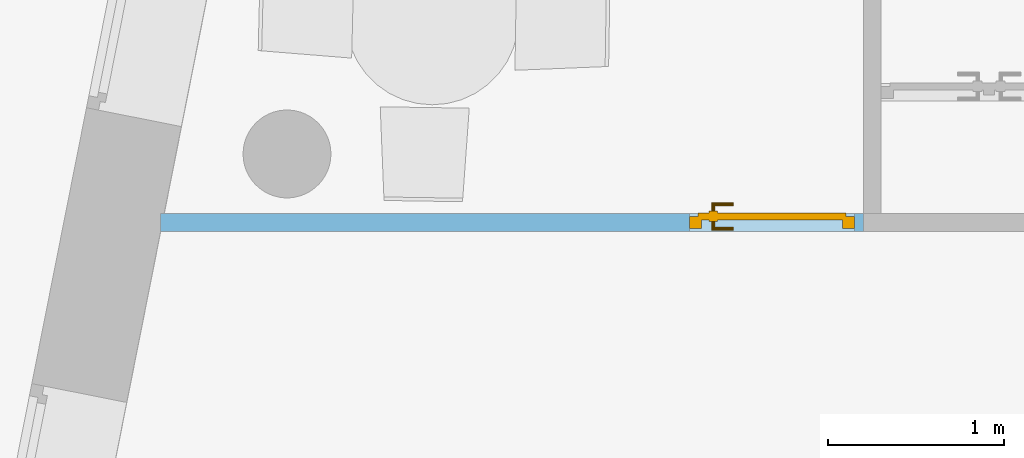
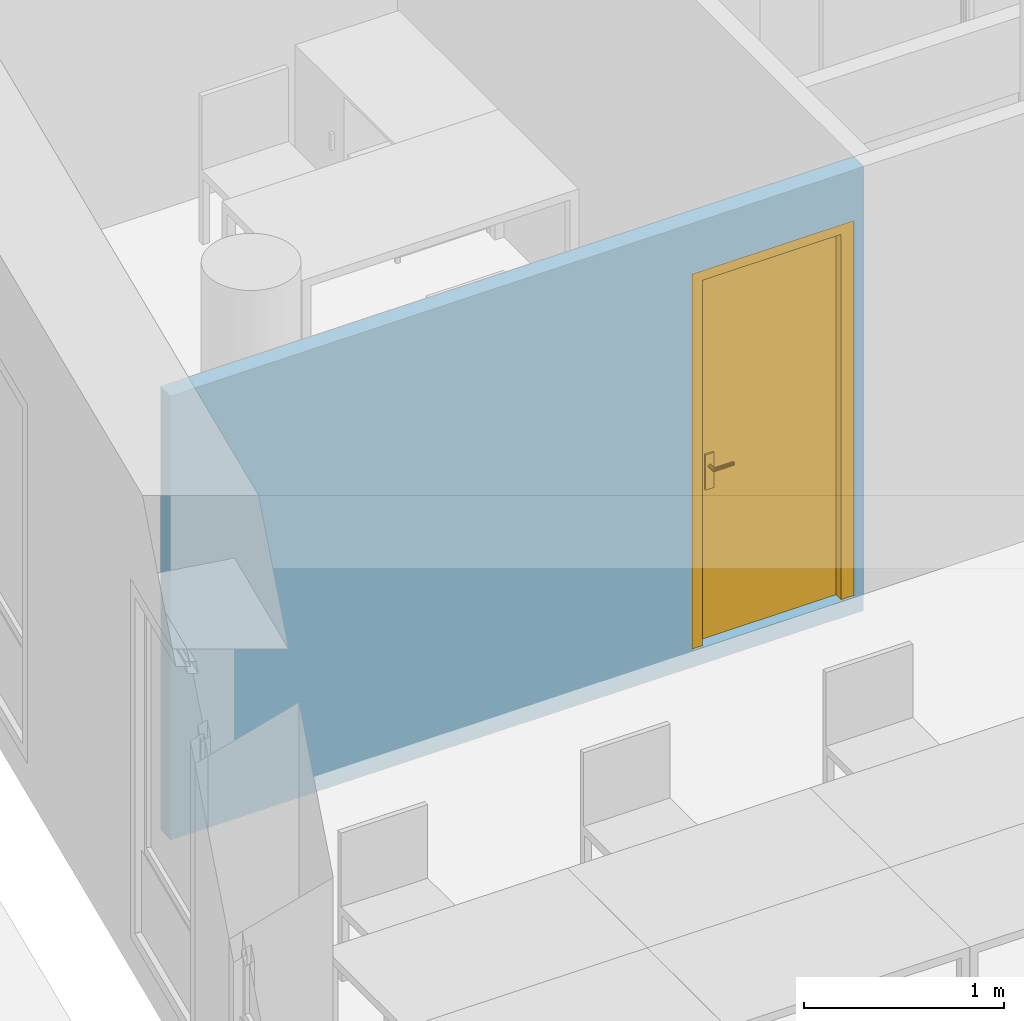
"""IFC4 building model written with IfcOpenShell, lengths in metres."""

from ifc_helpers import new_model, entity, si_unit, converted_unit, derived_unit, frame, frame_2d, origin, origin_with_axes, place, context, subcontext, project, spatial, polyline, rectangle, outline, extrude, faceted_brep, source, transform, mapped, material, layer, layer_set, layer_usage, element, fill, save


model = new_model("IFC4")

# Units and contexts
model_context = context("Model", 3, precision=1e-05, world=origin())
body_context = subcontext(model_context, "Body", "Model", "MODEL_VIEW")
ifc_project = project(units=[si_unit("LENGTHUNIT", "METRE"), si_unit("AREAUNIT", "SQUARE_METRE"), si_unit("VOLUMEUNIT", "CUBIC_METRE"), si_unit("MASSUNIT", "GRAM", prefix="KILO"), converted_unit("PLANEANGLEUNIT", "DEGREE", entity("IfcPlaneAngleMeasure", 0.0174532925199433), si_unit("PLANEANGLEUNIT", "RADIAN"), dimensions=[0, 0, 0, 0, 0, 0, 0]), derived_unit("THERMALTRANSMITTANCEUNIT", [(si_unit("POWERUNIT", "WATT"), 1), (si_unit("THERMODYNAMICTEMPERATUREUNIT", "KELVIN"), -1), (si_unit("LENGTHUNIT", "METRE"), -2)]), derived_unit("VOLUMETRICFLOWRATEUNIT", [(si_unit("LENGTHUNIT", "METRE"), 3), (converted_unit("TIMEUNIT", "hour", entity("IfcTimeMeasure", 3600.0), si_unit("TIMEUNIT", "SECOND"), dimensions=[0, 0, 1, 0, 0, 0, 0]), -1), (si_unit("LENGTHUNIT", "METRE"), -1)])], contexts=[model_context])

# Building, storeys
building_placement = place(None, origin())
building = spatial("IfcBuilding", under=ifc_project, at=building_placement, Name="HABITATGE PLURIFAMILIAR", CompositionType="ELEMENT")
storey_1_placement = place(building_placement, frame((0.0, 0.0, 6.25)))
storey_1 = spatial("IfcBuildingStorey", under=building, at=storey_1_placement, Name="PLANTA PRIMERA", CompositionType="ELEMENT", Elevation=6.25)
storey_2_placement = place(storey_1_placement, frame((0.0, 0.0, 3.35)))
storey_2 = spatial("IfcBuildingStorey", under=storey_1, at=storey_2_placement, Name="NOU", CompositionType="PARTIAL")

# Wall, opening, door
ifc_material = material()
ifc_layer = layer(ifc_material, 0.1)
ifc_layer_set = layer_set([ifc_layer])
ifc_layer_usage = layer_usage(ifc_layer_set, "AXIS2", "POSITIVE", 0.0)
wall_placement = place(storey_2_placement, frame((400.33768089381, 23.4194598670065, -3.45)))
wall = element("IfcWall", 1, at=wall_placement, inside=storey_2, material=ifc_layer_usage, Name="Mampara P1", context=body_context, shape_type="SweptSolid", body=[
    extrude(rectangle(XDim=3.99893698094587, YDim=0.1, at=frame_2d((1.99946849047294, 0.05), x_axis=(1.0, 0.0))), origin_with_axes(), (0.0, 0.0, 1.0), 2.71),
])
opening_placement = place(wall_placement, frame((3.94893698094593, 0.1, 0.1), z_axis=(0.0, -1.0, 0.0), x_axis=(0.0, 0.0, 1.0)))
opening = element("IfcOpeningElement", 2, at=opening_placement, cuts=wall, Name="Vano de puerta P1", ObjectType="Opening", context=body_context, shape_type="SweptSolid", body=[
    extrude(outline(polyline([(2.3, 0.94), (2.3, 0.0), (0.0, 0.0), (0.0, 0.94), (2.3, 0.94)])), origin_with_axes(), (0.0, 0.0, 1.0), 0.1),
])
shared_shape = source(origin_with_axes(), body_context, "Body", "Brep", [
    faceted_brep([(0.0, 0.07, 2.3), (0.0, 0.07, 0.0), (0.07, 0.07, 0.0), (0.07, 0.07, 2.3), (0.0, 0.0, 0.0), (0.0, 0.0, 2.3), (0.07, 0.0, 2.3), (0.07, 0.0, 0.0)], [[[0, 1, 2, 3]], [[4, 5, 6, 7]], [[1, 0, 5, 4]], [[2, 1, 4, 7]], [[3, 2, 7, 6]], [[0, 3, 6, 5]]], orient=[[False], [False], [False], [False], [False], [False]]),
    faceted_brep([(0.87, 0.07, 2.3), (0.87, 0.07, 0.0), (0.94, 0.07, 0.0), (0.94, 0.07, 2.3), (0.87, 0.0, 0.0), (0.87, 0.0, 2.3), (0.94, 0.0, 2.3), (0.94, 0.0, 0.0)], [[[0, 1, 2, 3]], [[4, 5, 6, 7]], [[1, 0, 5, 4]], [[2, 1, 4, 7]], [[3, 2, 7, 6]], [[0, 3, 6, 5]]], orient=[[False], [False], [False], [False], [False], [False]]),
    faceted_brep([(0.07, 0.07, 2.3), (0.07, 0.07, 2.23), (0.87, 0.07, 2.23), (0.87, 0.07, 2.3), (0.07, 0.0, 2.23), (0.07, 0.0, 2.3), (0.87, 0.0, 2.3), (0.87, 0.0, 2.23)], [[[0, 1, 2, 3]], [[4, 5, 6, 7]], [[1, 0, 5, 4]], [[2, 1, 4, 7]], [[3, 2, 7, 6]], [[0, 3, 6, 5]]], orient=[[False], [False], [False], [False], [False], [False]]),
    faceted_brep([(0.05, 0.09, 2.25), (0.05, 0.09, 0.0), (0.89, 0.09, 0.0), (0.89, 0.09, 2.25), (0.05, 0.05, 0.0), (0.05, 0.05, 2.25), (0.89, 0.05, 2.25), (0.89, 0.05, 0.0)], [[[0, 1, 2, 3]], [[4, 5, 6, 7]], [[1, 0, 5, 4]], [[2, 1, 4, 7]], [[3, 2, 7, 6]], [[0, 3, 6, 5]]], orient=[[False], [False], [False], [False], [False], [False]]),
    faceted_brep([(0.11, 0.05, 1.125), (0.11, 0.05, 0.91), (0.16, 0.05, 0.91), (0.16, 0.05, 1.125), (0.11, 0.04, 0.91), (0.11, 0.04, 1.125), (0.16, 0.04, 1.125), (0.16, 0.04, 0.91)], [[[0, 1, 2, 3]], [[4, 5, 6, 7]], [[1, 0, 5, 4]], [[2, 1, 4, 7]], [[3, 2, 7, 6]], [[0, 3, 6, 5]]], orient=[[False], [False], [False], [False], [False], [False]]),
    faceted_brep([(0.135, 0.04, 1.06), (0.13, 0.04, 1.05866025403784), (0.126339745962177, 0.04, 1.055), (0.125, 0.04, 1.05), (0.126339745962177, 0.04, 1.045), (0.13, 0.04, 1.04133974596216), (0.135, 0.04, 1.04), (0.14, 0.04, 1.04133974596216), (0.143660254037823, 0.04, 1.045), (0.145, 0.04, 1.05), (0.143660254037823, 0.04, 1.055), (0.14, 0.04, 1.05866025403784), (0.135, 0.0, 1.06), (0.13, -0.005, 1.05866025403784), (0.126339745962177, -0.00866025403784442, 1.055), (0.125, -0.01, 1.05), (0.126339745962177, -0.00866025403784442, 1.045), (0.13, -0.005, 1.04133974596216), (0.135, 0.0, 1.04), (0.14, 0.005, 1.04133974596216), (0.143660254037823, 0.00866025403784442, 1.045), (0.145, 0.01, 1.05), (0.143660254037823, 0.00866025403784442, 1.055), (0.14, 0.005, 1.05866025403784), (0.25, 0.0, 1.06), (0.25, 0.005, 1.05866025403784), (0.25, 0.00866025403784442, 1.055), (0.25, 0.01, 1.05), (0.25, 0.00866025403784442, 1.045), (0.25, 0.005, 1.04133974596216), (0.25, 0.0, 1.04), (0.25, -0.005, 1.04133974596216), (0.25, -0.00866025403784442, 1.045), (0.25, -0.01, 1.05), (0.25, -0.00866025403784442, 1.055), (0.25, -0.005, 1.05866025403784)], [[[0, 1, 2, 3, 4, 5, 6, 7, 8, 9, 10, 11]], [[0, 12, 13, 1]], [[1, 13, 14, 2]], [[2, 14, 15, 3]], [[3, 15, 16, 4]], [[4, 16, 17, 5]], [[5, 17, 18, 6]], [[6, 18, 19, 7]], [[7, 19, 20, 8]], [[8, 20, 21, 9]], [[9, 21, 22, 10]], [[10, 22, 23, 11]], [[11, 23, 12, 0]], [[24, 25, 26, 27, 28, 29, 30, 31, 32, 33, 34, 35]], [[12, 24, 35, 13]], [[13, 35, 34, 14]], [[14, 34, 33, 15]], [[15, 33, 32, 16]], [[16, 32, 31, 17]], [[17, 31, 30, 18]], [[18, 30, 29, 19]], [[19, 29, 28, 20]], [[20, 28, 27, 21]], [[21, 27, 26, 22]], [[22, 26, 25, 23]], [[23, 25, 24, 12]]], orient=[[False], [False], [False], [False], [False], [False], [False], [False], [False], [False], [False], [False], [False], [False], [False], [False], [False], [False], [False], [False], [False], [False], [False], [False], [False], [False]]),
    faceted_brep([(0.11, 0.09, 1.125), (0.16, 0.09, 1.125), (0.16, 0.09, 0.91), (0.11, 0.09, 0.91), (0.11, 0.1, 0.91), (0.16, 0.1, 0.91), (0.16, 0.1, 1.125), (0.11, 0.1, 1.125)], [[[0, 1, 2, 3]], [[4, 5, 6, 7]], [[3, 4, 7, 0]], [[2, 5, 4, 3]], [[1, 6, 5, 2]], [[0, 7, 6, 1]]], orient=[[False], [False], [False], [False], [False], [False]]),
    faceted_brep([(0.135, 0.1, 1.06), (0.14, 0.1, 1.05866025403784), (0.143660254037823, 0.1, 1.055), (0.145, 0.1, 1.05), (0.143660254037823, 0.1, 1.045), (0.14, 0.1, 1.04133974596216), (0.135, 0.1, 1.04), (0.13, 0.1, 1.04133974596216), (0.126339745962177, 0.1, 1.045), (0.125, 0.1, 1.05), (0.126339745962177, 0.1, 1.055), (0.13, 0.1, 1.05866025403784), (0.13, 0.145, 1.05866025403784), (0.135, 0.14, 1.06), (0.126339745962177, 0.148660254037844, 1.055), (0.125, 0.15, 1.05), (0.126339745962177, 0.148660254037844, 1.045), (0.13, 0.145, 1.04133974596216), (0.135, 0.14, 1.04), (0.14, 0.135, 1.04133974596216), (0.143660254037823, 0.131339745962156, 1.045), (0.145, 0.13, 1.05), (0.143660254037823, 0.131339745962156, 1.055), (0.14, 0.135, 1.05866025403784), (0.25, 0.14, 1.06), (0.25, 0.145, 1.05866025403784), (0.25, 0.148660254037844, 1.055), (0.25, 0.15, 1.05), (0.25, 0.148660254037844, 1.045), (0.25, 0.145, 1.04133974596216), (0.25, 0.14, 1.04), (0.25, 0.135, 1.04133974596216), (0.25, 0.131339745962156, 1.045), (0.25, 0.13, 1.05), (0.25, 0.131339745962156, 1.055), (0.25, 0.135, 1.05866025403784)], [[[0, 1, 2, 3, 4, 5, 6, 7, 8, 9, 10, 11]], [[0, 11, 12, 13]], [[11, 10, 14, 12]], [[10, 9, 15, 14]], [[9, 8, 16, 15]], [[8, 7, 17, 16]], [[7, 6, 18, 17]], [[6, 5, 19, 18]], [[5, 4, 20, 19]], [[4, 3, 21, 20]], [[3, 2, 22, 21]], [[2, 1, 23, 22]], [[1, 0, 13, 23]], [[24, 25, 26, 27, 28, 29, 30, 31, 32, 33, 34, 35]], [[13, 12, 25, 24]], [[12, 14, 26, 25]], [[14, 15, 27, 26]], [[15, 16, 28, 27]], [[16, 17, 29, 28]], [[17, 18, 30, 29]], [[18, 19, 31, 30]], [[19, 20, 32, 31]], [[20, 21, 33, 32]], [[21, 22, 34, 33]], [[22, 23, 35, 34]], [[23, 13, 24, 35]]], orient=[[False], [False], [False], [False], [False], [False], [False], [False], [False], [False], [False], [False], [False], [False], [False], [False], [False], [False], [False], [False], [False], [False], [False], [False], [False], [False]]),
])
door_placement = place(opening_placement, frame((0.0, 0.94, 0.085), z_axis=(1.0, 0.0, 0.0), x_axis=(0.0, -1.0, 0.0)))
door = element("IfcDoor", 3, at=door_placement, inside=storey_2, Name="Porta P1", OperationType="USERDEFINED", OverallHeight=2.3, OverallWidth=0.94, PredefinedType="DOOR", context=body_context, shape_type="MappedRepresentation", body=[
    mapped(shared_shape, transform((0.0, 0.0, 0.0), x_axis=(1.0, 0.0, 0.0), y_axis=(0.0, 1.0, 0.0), z_axis=(0.0, 0.0, 1.0), scale=1.0)),
])
fill(opening, door)

save(model, "model.ifc")
